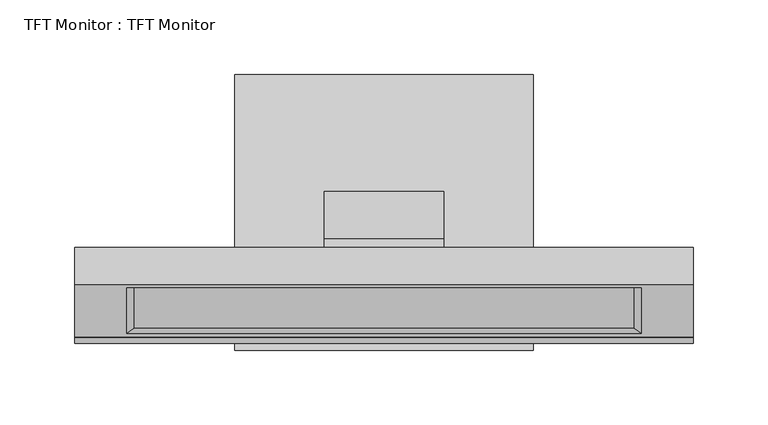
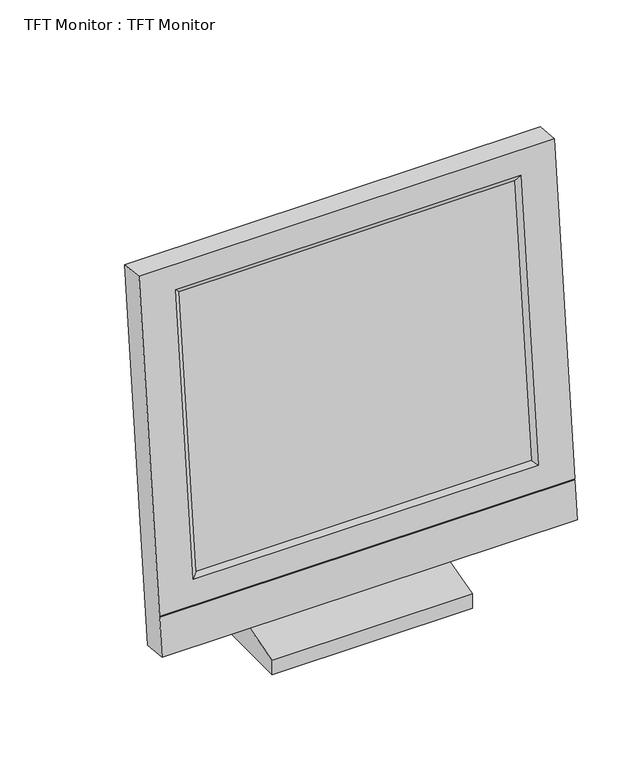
"""IFC4 building model written with IfcOpenShell, lengths in millimetres: proxy geometry, TFT Monitor : TFT Monitor."""

from ifc_helpers import new_model, si_unit, frame, origin, place, context, project, spatial, polyline, circle_curve, faceted_brep, source, transform, mapped, element, save
from ifc_brep_helpers import plane_surface, cylinder_surface, revolved_surface, advanced_brep


def tft_monitor_tft_monitor_f74c8f71(model_context):
    return source(origin(), model_context, "Body", "SolidModel", [
        advanced_brep(
        [(212.4907603, 3.6584962, 184.8082663), (212.4907603, -3.6584962, 115.1917337), (212.4907603, 16.289228, 119.0216035), (212.4907603, 41.685681, 31.4000178), (212.4907603, 66.713782, 31.2638404), (212.4907603, 33.0223342, 138.4014897), (132.4907603, 3.6584962, 184.8082663), (132.4907603, 33.0223342, 138.4014897), (132.4907603, 66.713782, 31.2638404), (132.4907603, 41.685681, 31.4000178), (132.4907603, 16.289228, 119.0216035), (132.4907603, -3.6584962, 115.1917337), (272.4907603, 145.235765, 15.2459974), (272.4907603, -39.764235, 15.2459974), (272.4907603, -39.764235, 0.0), (272.4907603, 145.235765, 0.0), (72.4907603, 145.235765, 15.2459974), (72.4907603, 145.235765, 0.0), (72.4907603, -39.764235, 0.0), (72.4907603, -39.764235, 15.2459974)],
        [
            (0, 1),
            (1, 2, circle_curve(frame((212.4907603, 0.0, 150.0), z_axis=(1.0, 0.0, 0.0), x_axis=(0.0, 1.0, 0.0)), 35.0)),
            (2, 3, circle_curve(frame((212.4907603, -95.0891306, 39.2481522), z_axis=(-1.0, 0.0, 0.0), x_axis=(0.0, 1.0, 0.0)), 136.9997894)),
            (3, 4, circle_curve(frame((212.4907603, 52.735765, -237.7310655), z_axis=(-1.0, 0.0, 0.0), x_axis=(0.0, 1.0, 0.0)), 269.357837)),
            (4, 5, circle_curve(frame((212.4907603, -95.0891306, 39.2481522), z_axis=(1.0, 0.0, 0.0), x_axis=(0.0, 1.0, 0.0)), 161.9997894)),
            (5, 0, circle_curve(frame((212.4907603, 0.0, 150.0), z_axis=(1.0, 0.0, 0.0), x_axis=(0.0, 1.0, 0.0)), 35.0)),
            (6, 7, circle_curve(frame((132.4907603, 0.0, 150.0), z_axis=(-1.0, 0.0, 0.0), x_axis=(0.0, 1.0, 0.0)), 35.0)),
            (7, 8, circle_curve(frame((132.4907603, -95.0891306, 39.2481522), z_axis=(-1.0, 0.0, 0.0), x_axis=(0.0, 1.0, 0.0)), 161.9997894)),
            (8, 9, circle_curve(frame((132.4907603, 52.735765, -237.7310655), z_axis=(1.0, 0.0, 0.0), x_axis=(0.0, 1.0, 0.0)), 269.357837)),
            (9, 10, circle_curve(frame((132.4907603, -95.0891306, 39.2481522), z_axis=(1.0, 0.0, 0.0), x_axis=(0.0, 1.0, 0.0)), 136.9997894)),
            (10, 11, circle_curve(frame((132.4907603, 0.0, 150.0), z_axis=(-1.0, 0.0, 0.0), x_axis=(0.0, 1.0, 0.0)), 35.0)),
            (11, 6),
            (0, 6),
            (11, 1),
            (10, 2),
            (9, 3),
            (7, 5),
            (4, 8),
            (12, 13, circle_curve(frame((272.4907603, 52.735765, -237.7310655), z_axis=(1.0, 0.0, 0.0), x_axis=(0.0, 1.0, 0.0)), 269.357837)),
            (13, 14),
            (14, 15),
            (15, 12),
            (16, 17),
            (17, 18),
            (18, 19),
            (19, 16, circle_curve(frame((72.4907603, 52.735765, -237.7310655), z_axis=(-1.0, 0.0, 0.0), x_axis=(0.0, 1.0, 0.0)), 269.357837)),
            (12, 16),
            (19, 13),
            (18, 14),
            (17, 15),
        ],
        [
            plane_surface(frame((212.4907603, -10.4528463, 50.5478105), z_axis=(1.0000000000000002, 0.0, 0.0), x_axis=(0.0, -0.10452846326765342, -0.9945218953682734))),
            plane_surface(frame((132.4907603, -10.4528463, 50.5478105), z_axis=(-1.0000000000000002, 0.0, 0.0), x_axis=(0.0, 0.10452846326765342, 0.9945218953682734))),
            plane_surface(frame((212.4907603, 3.6584962, 184.8082663), z_axis=(0.0, -0.9945218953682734, 0.10452846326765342), x_axis=(-1.0, 0.0, 0.0))),
            cylinder_surface(frame((132.4907603, 0.0, 150.0), z_axis=(1.0, 0.0, 0.0), x_axis=(0.0, 1.0, 0.0)), 35.0),
            revolved_surface(polyline([(132.4907603, 41.91065879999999, 39.2481522), (212.4907603, 41.91065879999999, 39.2481522)]), (132.4907603, -95.0891306, 39.2481522), (-1.0, 0.0, 0.0)),
            cylinder_surface(frame((132.4907603, -95.0891306, 39.2481522), z_axis=(1.0, 0.0, 0.0), x_axis=(0.0, 1.0, 0.0)), 161.9997894),
            plane_surface(frame((272.4907603, 322.093602, -237.7310655), z_axis=(1.0, 0.0, 0.0), x_axis=(0.0, 0.0, 1.0))),
            plane_surface(frame((72.4907603, 322.093602, -237.7310655), z_axis=(-1.0, 0.0, 0.0), x_axis=(0.0, 0.0, -1.0))),
            cylinder_surface(frame((72.4907603, 52.735765, -237.7310655), z_axis=(1.0, 0.0, 0.0), x_axis=(0.0, 1.0, 0.0)), 269.357837),
            plane_surface(frame((272.4907603, -39.764235, 15.2459974), z_axis=(0.0, -1.0, 0.0), x_axis=(-1.0, 0.0, 0.0))),
            plane_surface(frame((272.4907603, -39.764235, 0.0), z_axis=(0.0, 0.0, -1.0), x_axis=(-1.0, 0.0, 0.0))),
            plane_surface(frame((272.4907603, 145.235765, 0.0), z_axis=(0.0, 1.0, 0.0), x_axis=(-1.0, 0.0, 0.0))),
        ],
        [
            (0, [[1, 2, 3, 4, 5, 6]]),
            (1, [[7, 8, 9, 10, 11, 12]]),
            (2, [[-1, 13, -12, 14]]),
            (3, [[-2, -14, -11, 15]]),
            (4, [[-15, -10, 16, -3]]),
            (5, [[17, -5, 18, -8]]),
            (3, [[-6, -17, -7, -13]]),
            (6, [[19, 20, 21, 22]]),
            (7, [[23, 24, 25, 26]]),
            (8, [[-19, 27, -26, 28], [-4, -16, -9, -18]]),
            (9, [[-20, -28, -25, 29]]),
            (10, [[-21, -29, -24, 30]]),
            (11, [[-22, -30, -23, -27]]),
        ],
    ),
        faceted_brep([(379.9907603, 4.4049223, 431.0793423), (379.9907603, -31.0302267, 93.9364198), (379.9907603, -30.0357048, 93.8318913), (379.9907603, -30.1402333, 92.8373694), (379.9907603, -31.1347552, 92.9418979), (379.9907603, -35.3158937, 53.161022), (379.9907603, -10.4528463, 50.5478105), (379.9907603, 29.2679697, 428.4661307), (-35.0092397, 4.4049223, 431.0793423), (-35.0092397, 29.2679697, 428.4661307), (-35.0092397, -10.4528463, 50.5478105), (-35.0092397, -35.3158937, 53.161022), (-35.0092397, -31.1347552, 92.9418979), (-35.0092397, -30.1402333, 92.8373694), (-35.0092397, -30.0357048, 93.8318913), (-35.0092397, -31.0302267, 93.9364198), (-0.0092397, -28.4170151, 118.7994671), (-0.0092397, 1.7917107, 406.2162949), (344.9907603, 1.7917107, 406.2162949), (344.9907603, -28.4170151, 118.7994671), (4.9907603, -24.9108071, 123.4584912), (339.9907603, -24.9108071, 123.4584912), (339.9907603, 4.2526341, 400.9301), (4.9907603, 4.2526341, 400.9301)], [[[0, 1, 2, 3, 4, 5, 6, 7]], [[8, 9, 10, 11, 12, 13, 14, 15]], [[1, 0, 8, 15], [16, 17, 18, 19]], [[2, 1, 15, 14]], [[3, 2, 14, 13]], [[4, 3, 13, 12]], [[5, 4, 12, 11]], [[6, 5, 11, 10]], [[7, 6, 10, 9]], [[0, 7, 9, 8]], [[20, 21, 22, 23]], [[20, 23, 17, 16]], [[23, 22, 18, 17]], [[22, 21, 19, 18]], [[21, 20, 16, 19]]]),
    ])


if __name__ == "__main__":
    model = new_model("IFC4")
    model_context = context("Model", 3, world=origin())
    ifc_project = project(units=[si_unit("LENGTHUNIT", "METRE", prefix="MILLI")], contexts=[model_context])
    site = spatial("IfcSite", under=ifc_project)
    building = spatial("IfcBuilding", under=site)
    placement = place(None, origin())
    tft_monitor_tft_monitor_shape = tft_monitor_tft_monitor_f74c8f71(model_context)
    element("IfcBuildingElementProxy", 1, Name="TFT Monitor : TFT Monitor", ObjectType="TFT Monitor : TFT Monitor", at=placement, inside=building, context=model_context, shape_type="MappedRepresentation", body=[
        mapped(tft_monitor_tft_monitor_shape, transform((0.0, 0.0, 0.0), x_axis=(1.0, 0.0, 0.0), y_axis=(0.0, 1.0, 0.0), z_axis=(0.0, 0.0, 1.0))),
    ])
    save(model, "model.ifc")
